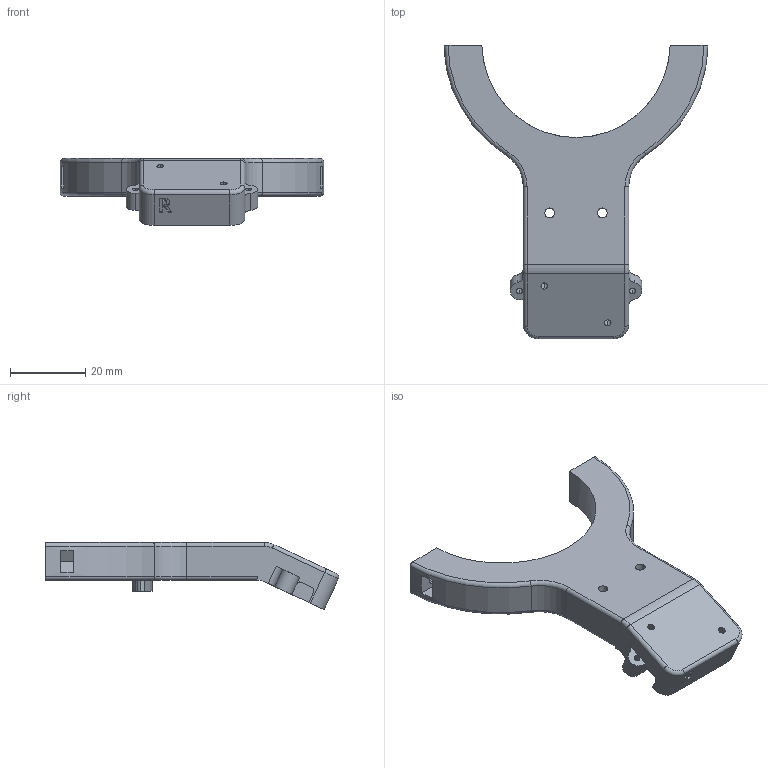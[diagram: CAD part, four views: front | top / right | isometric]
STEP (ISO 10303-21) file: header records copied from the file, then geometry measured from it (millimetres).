
FILE_DESCRIPTION (( 'STEP AP203' ), '1' );
FILE_NAME ('平行夹爪相机支架-右.STEP', '2025-08-21T06:41:10', ( '' ), ( '' ), 'SwSTEP 2.0', 'SolidWorks 2023', '' );
FILE_SCHEMA (( 'CONFIG_CONTROL_DESIGN' ));
Length unit declared in the file: millimetre
Products named in the file (1): 平行夹爪相机支架-右
Bounding box: 69.99 x 77.9 x 17.8 mm (x, y, z)
Volume: 14783.2 mm3; surface area: 8854.4 mm2
Topology: 1 solids, 1 shells, 138 faces, 376 edges, 242 vertices
Faces by surface type: cylinder 61, plane 55, torus 12, bspline 6, cone 4
Entity records: 4833 total; most frequent: CARTESIAN_POINT 1171, DIRECTION 766, ORIENTED_EDGE 744, EDGE_CURVE 372, AXIS2_PLACEMENT_3D 277, VERTEX_POINT 242, LINE 212, VECTOR 212
